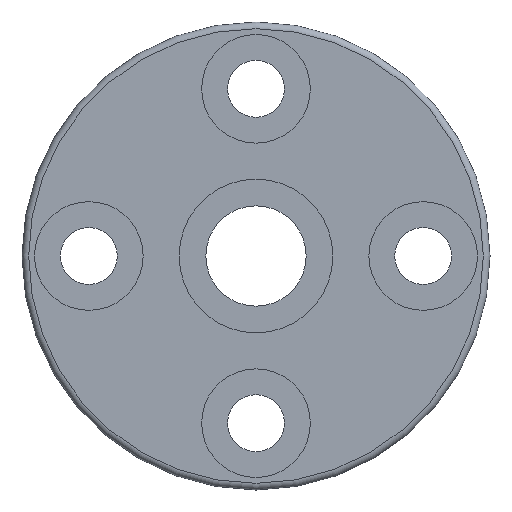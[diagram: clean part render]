
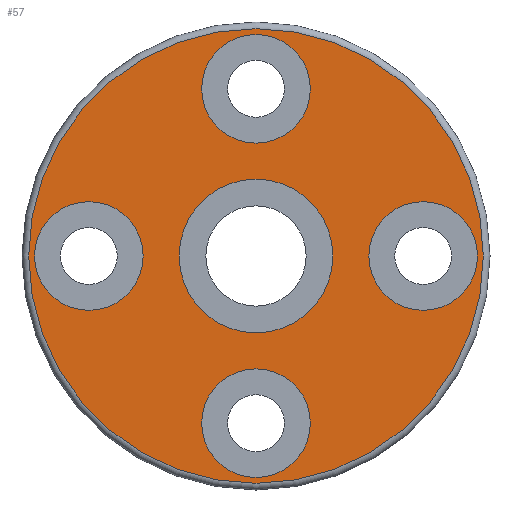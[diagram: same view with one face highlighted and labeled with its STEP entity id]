
A CAD part, left-side view. The second image highlights one B-rep face of the part: STEP entity #57.
In plain terms, the highlighted planar face has unit normal (-1, 0, 0).
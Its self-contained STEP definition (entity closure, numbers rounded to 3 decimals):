
#57 = ADVANCED_FACE( '', ( #134, #135, #136, #137, #138, #139 ), #140, .T. );
#134 = FACE_BOUND( '', #257, .T. );
#135 = FACE_BOUND( '', #258, .T. );
#136 = FACE_BOUND( '', #259, .T. );
#137 = FACE_BOUND( '', #260, .T. );
#138 = FACE_BOUND( '', #261, .T. );
#139 = FACE_OUTER_BOUND( '', #262, .T. );
#140 = PLANE( '', #263 );
#257 = EDGE_LOOP( '', ( #380 ) );
#258 = EDGE_LOOP( '', ( #381 ) );
#259 = EDGE_LOOP( '', ( #382 ) );
#260 = EDGE_LOOP( '', ( #383 ) );
#261 = EDGE_LOOP( '', ( #384 ) );
#262 = EDGE_LOOP( '', ( #385 ) );
#263 = AXIS2_PLACEMENT_3D( '', #386, #387, #388 );
#380 = ORIENTED_EDGE( '', *, *, #541, .T. );
#381 = ORIENTED_EDGE( '', *, *, #542, .T. );
#382 = ORIENTED_EDGE( '', *, *, #543, .T. );
#383 = ORIENTED_EDGE( '', *, *, #544, .T. );
#384 = ORIENTED_EDGE( '', *, *, #545, .F. );
#385 = ORIENTED_EDGE( '', *, *, #546, .T. );
#386 = CARTESIAN_POINT( '', ( 0., 9.2, 0. ) );
#387 = DIRECTION( '', ( -1., 0., 0. ) );
#388 = DIRECTION( '', ( 0., 1., 0. ) );
#541 = EDGE_CURVE( '', #605, #605, #606, .T. );
#542 = EDGE_CURVE( '', #607, #607, #608, .T. );
#543 = EDGE_CURVE( '', #609, #609, #610, .T. );
#544 = EDGE_CURVE( '', #611, #611, #612, .T. );
#545 = EDGE_CURVE( '', #613, #613, #614, .T. );
#546 = EDGE_CURVE( '', #615, #615, #616, .T. );
#605 = VERTEX_POINT( '', #694 );
#606 = CIRCLE( '', #695, 3.25 );
#607 = VERTEX_POINT( '', #696 );
#608 = CIRCLE( '', #697, 3.25 );
#609 = VERTEX_POINT( '', #698 );
#610 = CIRCLE( '', #699, 3.25 );
#611 = VERTEX_POINT( '', #700 );
#612 = CIRCLE( '', #701, 3.25 );
#613 = VERTEX_POINT( '', #702 );
#614 = CIRCLE( '', #703, 4.6 );
#615 = VERTEX_POINT( '', #704 );
#616 = CIRCLE( '', #705, 13.6 );
#694 = CARTESIAN_POINT( '', ( 0., 0., -13.25 ) );
#695 = AXIS2_PLACEMENT_3D( '', #785, #786, #787 );
#696 = CARTESIAN_POINT( '', ( 0., 0., 13.25 ) );
#697 = AXIS2_PLACEMENT_3D( '', #788, #789, #790 );
#698 = CARTESIAN_POINT( '', ( 0., -13.25, 0. ) );
#699 = AXIS2_PLACEMENT_3D( '', #791, #792, #793 );
#700 = CARTESIAN_POINT( '', ( 0., 13.25, 0. ) );
#701 = AXIS2_PLACEMENT_3D( '', #794, #795, #796 );
#702 = CARTESIAN_POINT( '', ( 0., 4.6, 0. ) );
#703 = AXIS2_PLACEMENT_3D( '', #797, #798, #799 );
#704 = CARTESIAN_POINT( '', ( 0., 13.6, 0. ) );
#705 = AXIS2_PLACEMENT_3D( '', #800, #801, #802 );
#785 = CARTESIAN_POINT( '', ( 0., 0., -10. ) );
#786 = DIRECTION( '', ( 1., 0., 0. ) );
#787 = DIRECTION( '', ( 0., 0., -1. ) );
#788 = CARTESIAN_POINT( '', ( 0., 0., 10. ) );
#789 = DIRECTION( '', ( 1., 0., 0. ) );
#790 = DIRECTION( '', ( 0., 0., 1. ) );
#791 = CARTESIAN_POINT( '', ( 0., -10., 0. ) );
#792 = DIRECTION( '', ( 1., 0., 0. ) );
#793 = DIRECTION( '', ( 0., -1., 0. ) );
#794 = CARTESIAN_POINT( '', ( 0., 10., 0. ) );
#795 = DIRECTION( '', ( 1., 0., 0. ) );
#796 = DIRECTION( '', ( 0., 1., 0. ) );
#797 = CARTESIAN_POINT( '', ( 0., 0., 0. ) );
#798 = DIRECTION( '', ( -1., 0., 0. ) );
#799 = DIRECTION( '', ( 0., 1., 0. ) );
#800 = CARTESIAN_POINT( '', ( 0., 0., 0. ) );
#801 = DIRECTION( '', ( -1., 0., 0. ) );
#802 = DIRECTION( '', ( 0., 0., 1. ) );
